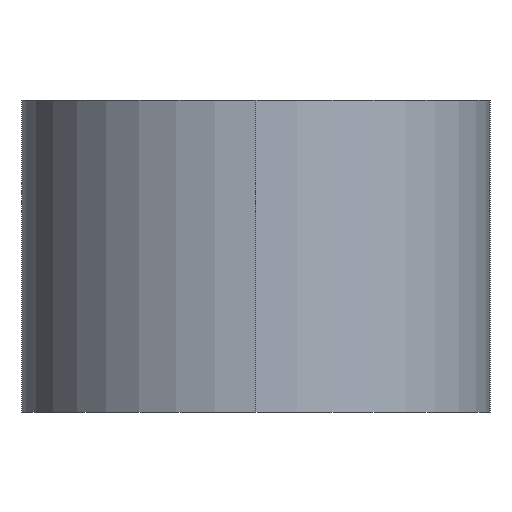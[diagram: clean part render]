
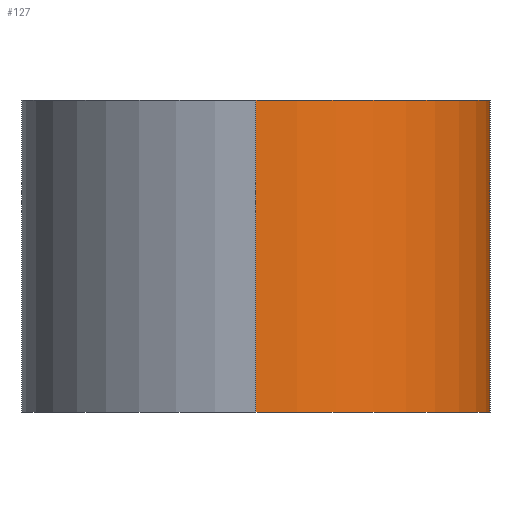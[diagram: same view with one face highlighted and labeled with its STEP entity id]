
A CAD part, left-side view. The second image highlights one B-rep face of the part: STEP entity #127.
In plain terms, the highlighted cylindrical face has radius 6 mm (diameter 12 mm), a partial arc.
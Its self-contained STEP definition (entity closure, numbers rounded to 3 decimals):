
#5 = CARTESIAN_POINT ( 'NONE',  ( -31.5, 0., 8. ) ) ;
#10 = DIRECTION ( 'NONE',  ( -1., 0., 0. ) ) ;
#12 = EDGE_CURVE ( 'NONE', #114, #227, #214, .T. ) ;
#25 = DIRECTION ( 'NONE',  ( 1., 0., 0. ) ) ;
#30 = DIRECTION ( 'NONE',  ( 0., 0., 1. ) ) ;
#37 = CIRCLE ( 'NONE', #63, 6. ) ;
#44 = LINE ( 'NONE', #5, #113 ) ;
#46 = DIRECTION ( 'NONE',  ( 0., 0., -1. ) ) ;
#52 = EDGE_CURVE ( 'NONE', #77, #239, #44, .T. ) ;
#60 = CIRCLE ( 'NONE', #226, 6. ) ;
#63 = AXIS2_PLACEMENT_3D ( 'NONE', #237, #30, #162 ) ;
#65 = CARTESIAN_POINT ( 'NONE',  ( -31.5, 0., 8. ) ) ;
#76 = ORIENTED_EDGE ( 'NONE', *, *, #103, .T. ) ;
#77 = VERTEX_POINT ( 'NONE', #65 ) ;
#80 = CARTESIAN_POINT ( 'NONE',  ( -25.5, -6., 8. ) ) ;
#82 = AXIS2_PLACEMENT_3D ( 'NONE', #210, #46, #10 ) ;
#83 = DIRECTION ( 'NONE',  ( 0., 0., -1. ) ) ;
#103 = EDGE_CURVE ( 'NONE', #239, #227, #60, .T. ) ;
#113 = VECTOR ( 'NONE', #83, 1000. ) ;
#114 = VERTEX_POINT ( 'NONE', #139 ) ;
#123 = DIRECTION ( 'NONE',  ( 0., 0., -1. ) ) ;
#127 = ADVANCED_FACE ( 'NONE', ( #193 ), #211, .T. ) ;
#139 = CARTESIAN_POINT ( 'NONE',  ( -25.5, -6., 8. ) ) ;
#145 = CARTESIAN_POINT ( 'NONE',  ( -25.5, -6., 0. ) ) ;
#156 = DIRECTION ( 'NONE',  ( 0., 0., 1. ) ) ;
#162 = DIRECTION ( 'NONE',  ( 1., 0., 0. ) ) ;
#183 = CARTESIAN_POINT ( 'NONE',  ( -31.5, 0., 0. ) ) ;
#190 = EDGE_LOOP ( 'NONE', ( #204, #221, #76, #225 ) ) ;
#193 = FACE_OUTER_BOUND ( 'NONE', #190, .T. ) ;
#196 = CARTESIAN_POINT ( 'NONE',  ( -25.5, 0., 0. ) ) ;
#204 = ORIENTED_EDGE ( 'NONE', *, *, #213, .F. ) ;
#210 = CARTESIAN_POINT ( 'NONE',  ( -25.5, 0., 8. ) ) ;
#211 = CYLINDRICAL_SURFACE ( 'NONE', #82, 6. ) ;
#213 = EDGE_CURVE ( 'NONE', #77, #114, #37, .T. ) ;
#214 = LINE ( 'NONE', #80, #238 ) ;
#221 = ORIENTED_EDGE ( 'NONE', *, *, #52, .T. ) ;
#225 = ORIENTED_EDGE ( 'NONE', *, *, #12, .F. ) ;
#226 = AXIS2_PLACEMENT_3D ( 'NONE', #196, #156, #25 ) ;
#227 = VERTEX_POINT ( 'NONE', #145 ) ;
#237 = CARTESIAN_POINT ( 'NONE',  ( -25.5, 0., 8. ) ) ;
#238 = VECTOR ( 'NONE', #123, 1000. ) ;
#239 = VERTEX_POINT ( 'NONE', #183 ) ;
